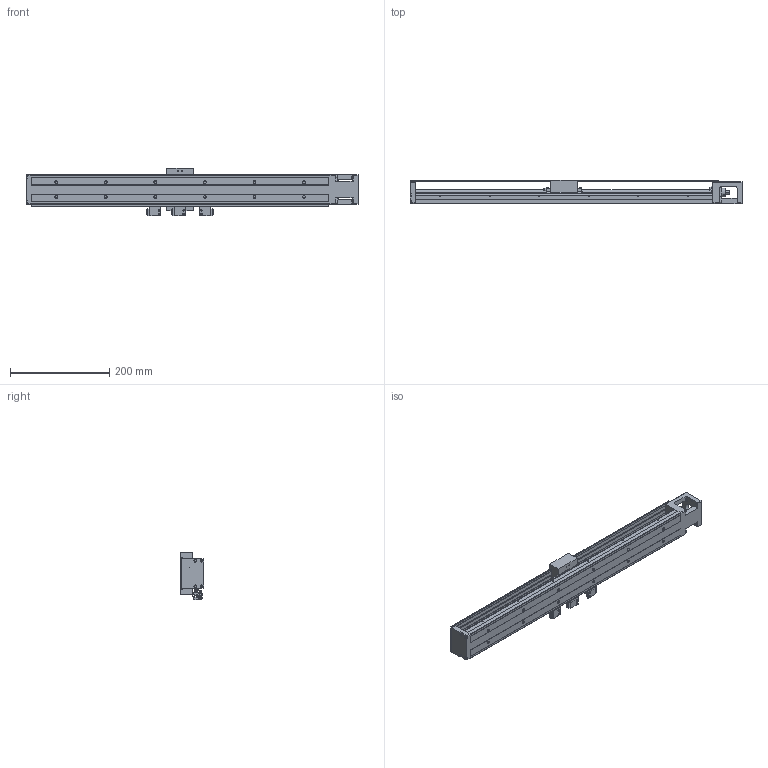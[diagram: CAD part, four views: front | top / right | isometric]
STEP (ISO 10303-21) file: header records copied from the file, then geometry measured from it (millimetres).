
FILE_DESCRIPTION (( 'STEP AP203' ), '1' );
FILE_NAME ('HKK60D10C-600A1-F0CS2.stp', '2021-11-30T01:34:30', ( '' ), ( '' ), 'SwSTEP 2.0', 'SolidWorks 2018', '' );
FILE_SCHEMA (( 'CONFIG_CONTROL_DESIGN' ));
Length unit declared in the file: millimetre
Products named in the file (1): HKK60D10C-600A1-F0CS2
Bounding box: 670 x 48 x 95.85 mm (x, y, z)
Volume: 807417.1 mm3; surface area: 312850.4 mm2
Topology: 6 solids, 16 shells, 1403 faces, 3579 edges, 2271 vertices
Faces by surface type: plane 845, cylinder 410, cone 114, torus 32, bspline 2
Entity records: 42291 total; most frequent: CARTESIAN_POINT 8527, ORIENTED_EDGE 7026, DIRECTION 6873, EDGE_CURVE 3513, LINE 2437, VECTOR 2437, VERTEX_POINT 2271, AXIS2_PLACEMENT_3D 2218
